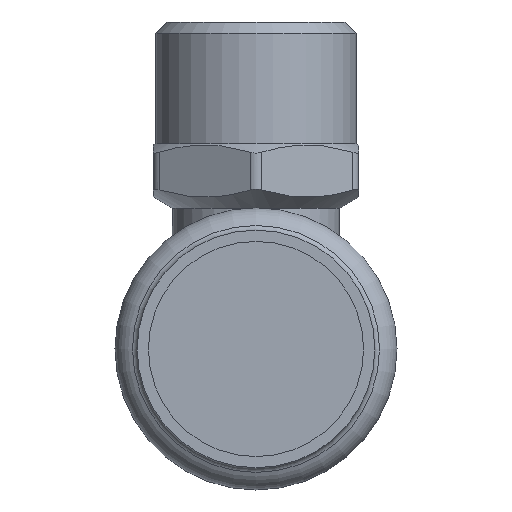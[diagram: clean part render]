
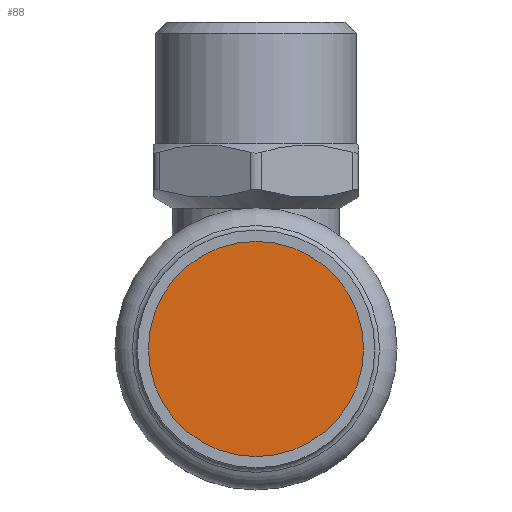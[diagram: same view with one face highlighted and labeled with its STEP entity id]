
A CAD part, front view. The second image highlights one B-rep face of the part: STEP entity #88.
In plain terms, the highlighted planar face has unit normal (0, -1, 0).
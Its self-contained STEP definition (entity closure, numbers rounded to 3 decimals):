
#88=ADVANCED_FACE('',(#381),#383,.T.);
#381=FACE_BOUND('',#382,.T.);
#382=EDGE_LOOP('',(#519));
#383=PLANE('',#384);
#384=AXIS2_PLACEMENT_3D('',#385,#386,#387);
#385=CARTESIAN_POINT('',(0.,-44.219,0.));
#386=DIRECTION('',(0.,-1.,0.));
#387=DIRECTION('',(0.,0.,-1.));
#519=ORIENTED_EDGE('',*,*,#582,.T.);
#582=EDGE_CURVE('',#694,#694,#695,.F.);
#694=VERTEX_POINT('',#2098);
#695=CIRCLE('',#2099,14.15);
#2098=CARTESIAN_POINT('',(0.,-44.219,14.15));
#2099=AXIS2_PLACEMENT_3D('',#2100,#2101,#2102);
#2100=CARTESIAN_POINT('',(0.,-44.219,0.));
#2101=DIRECTION('',(0.,1.,0.));
#2102=DIRECTION('',(0.,0.,1.));
